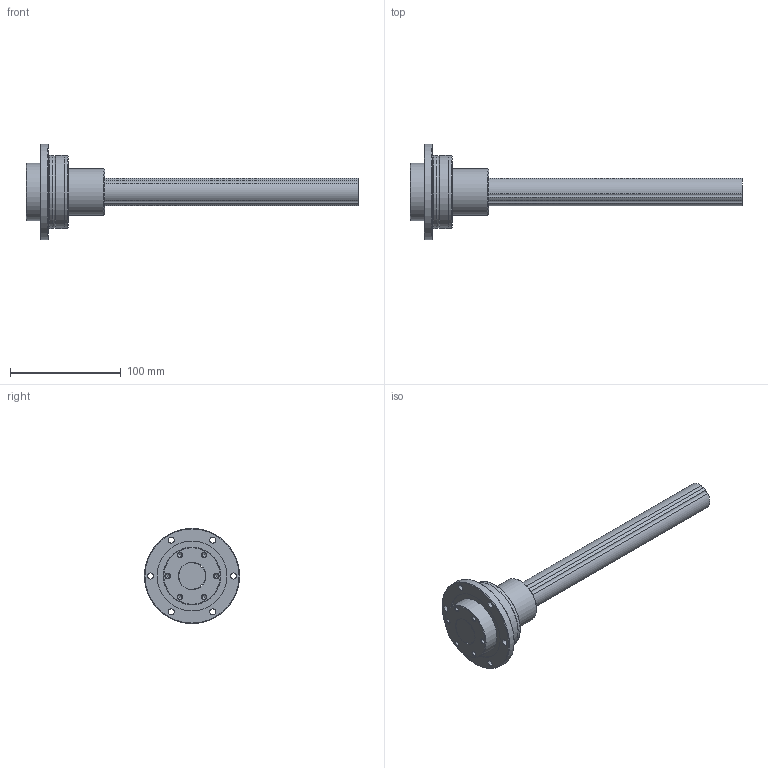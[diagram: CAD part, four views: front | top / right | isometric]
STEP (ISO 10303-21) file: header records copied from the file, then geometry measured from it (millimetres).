
FILE_DESCRIPTION(/* description */ ('STEP AP214'),/* implementation_level */ '2;1');
FILE_NAME(/* name */ 'LTR25A+300L(0_0)',/* time_stamp */ '2024-09-04T12:32:03+02:00',/* author */ ('License CC BY-ND 4.0'),/* organization */ ('CADENAS'),/* preprocessor_version */ 'ST-DEVELOPER v19.3',/* originating_system */ 'PARTsolutions',/* authorisation */ ' ');
FILE_SCHEMA (('AUTOMOTIVE_DESIGN {1 0 10303 214 3 1 1}'));
Length unit declared in the file: millimetre
Products named in the file (3): LTR25A+300L(0,0); LTR 25A300 LTRA Shaft; LTR 25A LTRA ACyl
Assembly tree (3 placements, depth 2):
  LTR25A+300L(0,0)
    LTR 25A300 LTRA Shaft
    LTR 25A LTRA ACyl  x2
Bounding box: 300 x 86 x 86 mm (x, y, z)
Volume: 413263.3 mm3; surface area: 86760 mm2
Topology: 3 solids, 3 shells, 122 faces, 284 edges, 184 vertices
Faces by surface type: cylinder 60, cone 34, plane 22, torus 6
Full cylindrical faces by diameter (mm): 2 x2, 4.134 x12, 5.5 x12, 25 x2, 42 x2, 49.5 x2, 52 x2, 59.4 x2, 63.03 x2, 65.5 x2, 65.6 x2, 66 x4, 86 x2
Entity records: 1728 total; most frequent: DIRECTION 322, CARTESIAN_POINT 270, ORIENTED_EDGE 192, AXIS2_PLACEMENT_3D 155, FACE_BOUND 140, EDGE_LOOP 134, EDGE_CURVE 96, VERTEX_POINT 90
